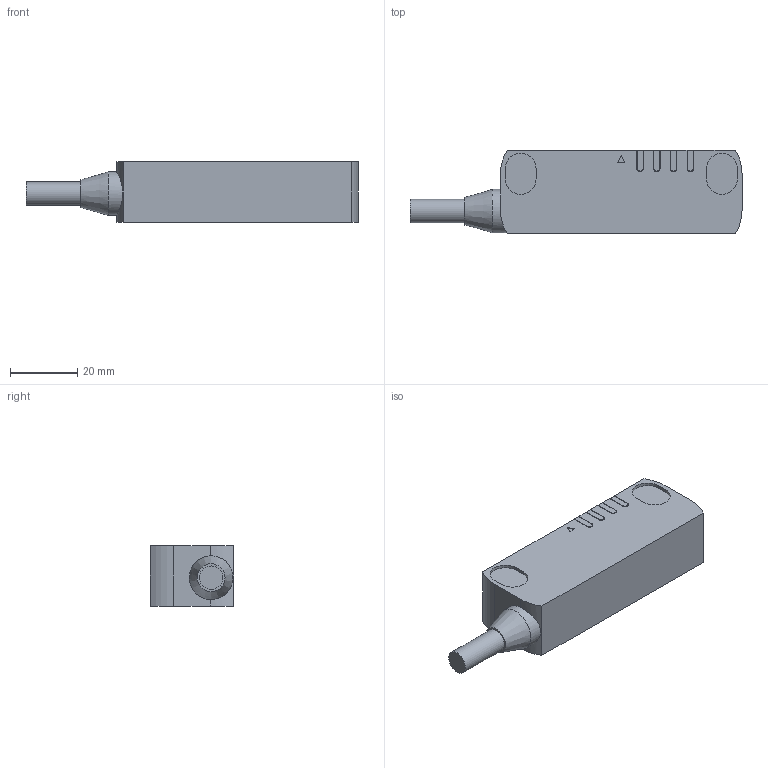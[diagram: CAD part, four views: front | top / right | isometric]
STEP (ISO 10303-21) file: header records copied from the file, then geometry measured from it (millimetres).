
FILE_DESCRIPTION(/* description */ (''),/* implementation_level */ '2;1');
FILE_NAME(/* name */ '3DCAD_RD800_xxCA_CB2_L.stp',/* time_stamp */ '2025-08-13T09:48:54+02:00',/* author */ ('CC2'),/* organization */ ('Leuze electronic'),/* preprocessor_version */ 'ST-DEVELOPER v19.4',/* originating_system */ 'SIEMENS PLM Software NX2306.9180',/* authorisation */ '');
FILE_SCHEMA (('AUTOMOTIVE_DESIGN { 1 0 10303 214 3 1 1 1 }'));
Length unit declared in the file: millimetre
Products named in the file (1): 19-103929_00_1-3DCAD_RD800_xxCA_CB2_L
Bounding box: 99 x 25 x 18 mm (x, y, z)
Volume: 32472.8 mm3; surface area: 9641.8 mm2
Topology: 5 solids, 5 shells, 230 faces, 583 edges, 376 vertices
Faces by surface type: plane 135, cylinder 78, torus 12, cone 5
Full cylindrical faces by diameter (mm): 7 x1, 13 x1
Entity records: 7210 total; most frequent: CARTESIAN_POINT 1508, DIRECTION 1186, ORIENTED_EDGE 1156, EDGE_CURVE 578, LINE 406, VECTOR 406, AXIS2_PLACEMENT_3D 390, VERTEX_POINT 374
